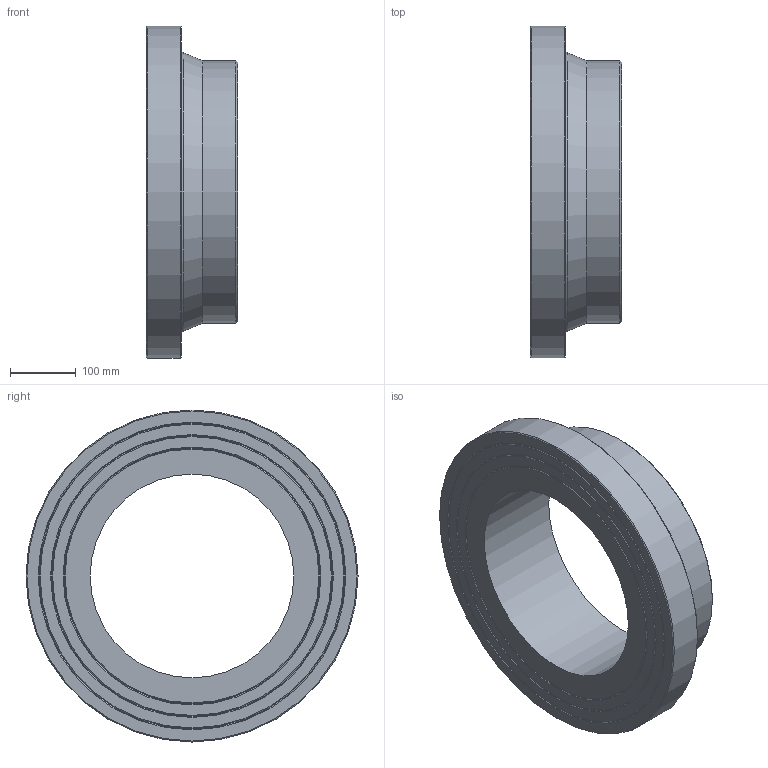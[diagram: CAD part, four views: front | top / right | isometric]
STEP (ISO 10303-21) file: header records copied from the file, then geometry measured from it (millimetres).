
FILE_DESCRIPTION(/* description */ ('Unknown'),/* implementation_level */ '2;1');
FILE_NAME(/* name */ 'CCP400G',/* time_stamp */ '2022-04-04T14:19:58+02:00',/* author */ ('Unknown'),/* organization */ ('Unknown'),/* preprocessor_version */ 'ST-DEVELOPER v18.1',/* originating_system */ 'Solid Edge',/* authorisation */ 'Unknown');
FILE_SCHEMA (('AUTOMOTIVE_DESIGN {1 0 10303 214 3 1 1}'));
Length unit declared in the file: millimetre
Products named in the file (1): CCP400G
Bounding box: 139 x 506 x 506 mm (x, y, z)
Volume: 11208895.2 mm3; surface area: 562883.2 mm2
Topology: 1 solids, 1 shells, 20 faces, 35 edges, 21 vertices
Faces by surface type: cone 10, plane 6, cylinder 3, torus 1
Full cylindrical faces by diameter (mm): 310.6 x1, 400 x1, 506 x1
Entity records: 438 total; most frequent: DIRECTION 82, CARTESIAN_POINT 61, AXIS2_PLACEMENT_3D 41, ORIENTED_EDGE 40, EDGE_LOOP 40, FACE_BOUND 40, EDGE_CURVE 20, VERTEX_POINT 20
